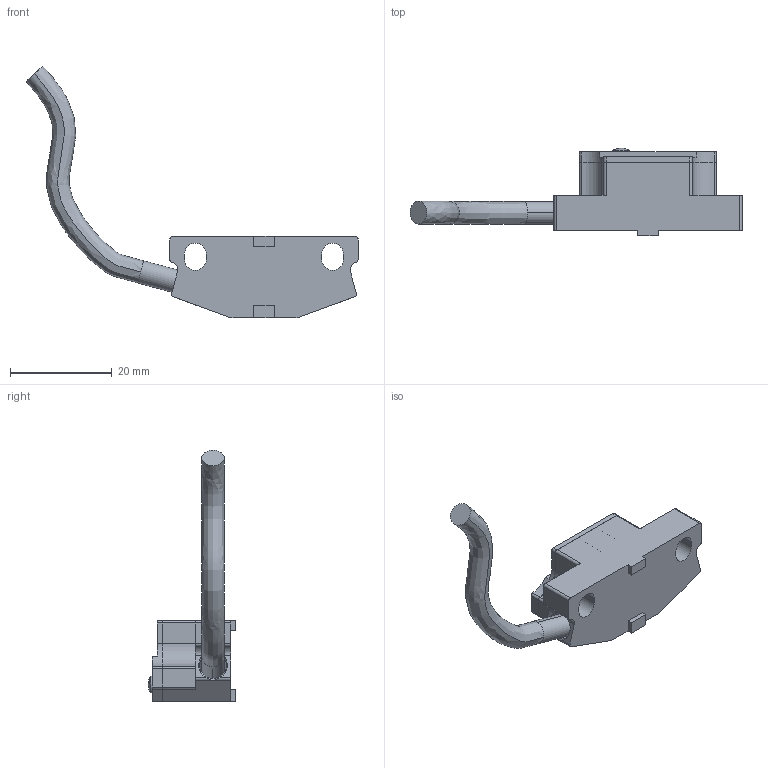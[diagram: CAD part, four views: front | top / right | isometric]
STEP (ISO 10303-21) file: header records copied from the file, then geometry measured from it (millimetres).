
FILE_DESCRIPTION (( 'STEP AP214' ), '1' );
FILE_NAME ('SP3x_tangencialni_L.STEP', '2026-09-23T11:49:00', ( '' ), ( '' ), 'SwSTEP 2.0', 'SolidWorks 2024', '' );
FILE_SCHEMA (( 'AUTOMOTIVE_DESIGN' ));
Length unit declared in the file: millimetre
Products named in the file (1): SP3x_tangencialni_L
Bounding box: 65.32 x 17.26 x 49.49 mm (x, y, z)
Volume: 6991.1 mm3; surface area: 3852.1 mm2
Topology: 1 solids, 12 shells, 243 faces, 638 edges, 411 vertices
Faces by surface type: cylinder 100, plane 79, cone 54, bspline 4, torus 4, sphere 2
Entity records: 10702 total; most frequent: CARTESIAN_POINT 2845, DIRECTION 1304, ORIENTED_EDGE 1260, EDGE_CURVE 630, AXIS2_PLACEMENT_3D 508, VERTEX_POINT 411, VECTOR 288, LINE 288
